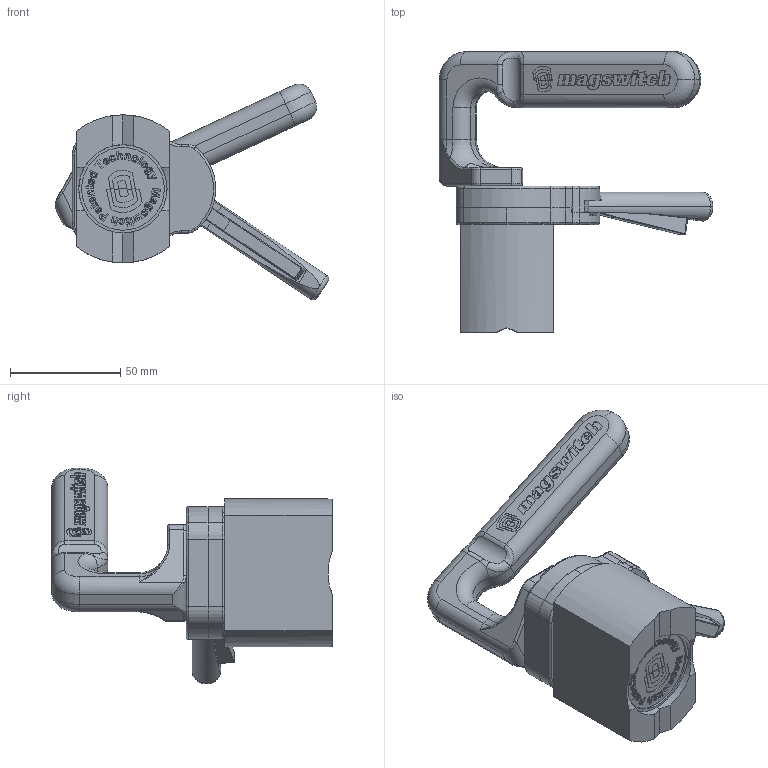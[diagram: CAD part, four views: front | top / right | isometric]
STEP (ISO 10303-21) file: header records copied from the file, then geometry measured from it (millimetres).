
FILE_DESCRIPTION (( 'STEP AP203' ), '1' );
FILE_NAME ('8000810_p.STEP', '2015-03-26T13:41:34', ( '' ), ( '' ), 'SwSTEP 2.0', 'SolidWorks 2013', '' );
FILE_SCHEMA (( 'CONFIG_CONTROL_DESIGN' ));
Products named in the file (1): 8000810_p
Bounding box: 123.73 x 127 x 97.66 mm (x, y, z)
Surface area: 47782.2 mm2 (no closed solid volume)
Topology: 0 solids, 14 shells, 931 faces, 3482 edges, 2456 vertices
Faces by surface type: plane 474, bspline 244, cylinder 123, torus 45, cone 45
Entity records: 48039 total; most frequent: CARTESIAN_POINT 21269, ORIENTED_EDGE 5541, DIRECTION 4522, EDGE_CURVE 3478, VERTEX_POINT 2456, LINE 1994, VECTOR 1994, AXIS2_PLACEMENT_3D 1264
